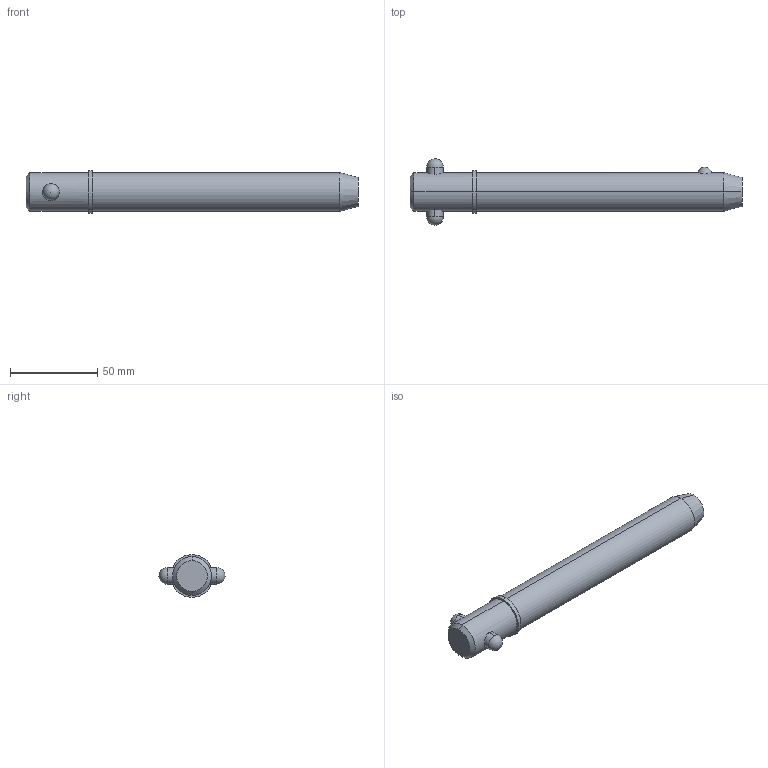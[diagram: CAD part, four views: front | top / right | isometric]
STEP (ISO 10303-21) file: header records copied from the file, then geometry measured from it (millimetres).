
FILE_DESCRIPTION (( 'STEP AP203' ), '1' );
FILE_NAME ('33018.W8850.step', '2024-11-19T17:22:52', ( '' ), ( '' ), 'SwSTEP 2.0', 'SolidWorks 2019', '' );
FILE_SCHEMA (( 'CONFIG_CONTROL_DESIGN' ));
Length unit declared in the file: millimetre
Products named in the file (3): Part1_33018.W8850; 33018.W8850; Part2_33018.W8850
Assembly tree (2 placements, depth 2):
  33018.W8850
    Part1_33018.W8850
    Part2_33018.W8850
Bounding box: 190.5 x 38.1 x 24.45 mm (x, y, z)
Volume: 74079.7 mm3; surface area: 15587.4 mm2
Topology: 2 solids, 2 shells, 22 faces, 47 edges, 30 vertices
Faces by surface type: cylinder 10, sphere 4, cone 4, plane 4
Entity records: 1057 total; most frequent: CARTESIAN_POINT 300, DIRECTION 110, ORIENTED_EDGE 82, AXIS2_PLACEMENT_3D 48, EDGE_CURVE 41, EDGE_LOOP 27, PERSON_AND_ORGANIZATION 26, VERTEX_POINT 26
